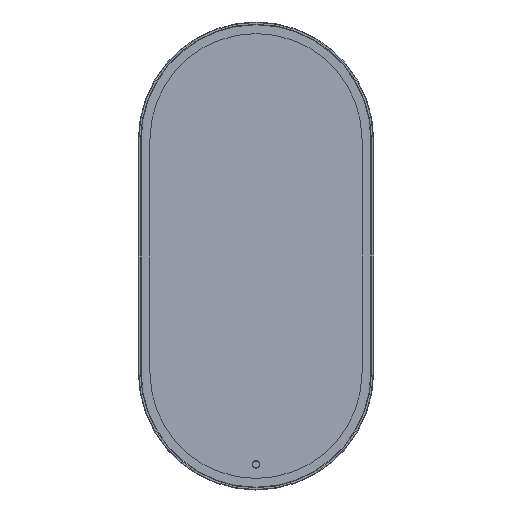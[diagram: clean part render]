
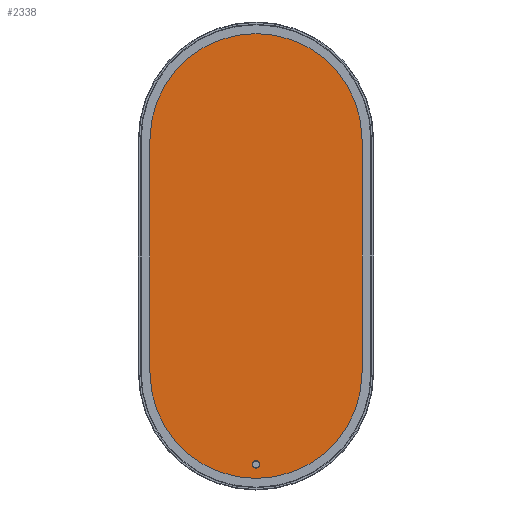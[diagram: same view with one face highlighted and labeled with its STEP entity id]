
A CAD part, front view. The second image highlights one B-rep face of the part: STEP entity #2338.
In plain terms, the highlighted planar face has unit normal (0, -1, 0).
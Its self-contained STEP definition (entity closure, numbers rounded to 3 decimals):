
#210=CIRCLE('',#2640,228.);
#212=CIRCLE('',#2644,228.);
#215=CIRCLE('',#2649,8.);
#777=ORIENTED_EDGE('',*,*,#1155,.T.);
#778=ORIENTED_EDGE('',*,*,#1142,.T.);
#779=ORIENTED_EDGE('',*,*,#1146,.T.);
#780=ORIENTED_EDGE('',*,*,#1149,.T.);
#781=ORIENTED_EDGE('',*,*,#1152,.T.);
#1142=EDGE_CURVE('',#1374,#1375,#1584,.T.);
#1146=EDGE_CURVE('',#1375,#1378,#210,.T.);
#1149=EDGE_CURVE('',#1378,#1380,#1589,.T.);
#1152=EDGE_CURVE('',#1380,#1374,#212,.T.);
#1155=EDGE_CURVE('',#1383,#1383,#215,.T.);
#1374=VERTEX_POINT('',#3942);
#1375=VERTEX_POINT('',#3943);
#1378=VERTEX_POINT('',#3951);
#1380=VERTEX_POINT('',#3957);
#1383=VERTEX_POINT('',#3969);
#1584=LINE('',#3941,#1792);
#1589=LINE('',#3956,#1797);
#1792=VECTOR('',#3260,1000.);
#1797=VECTOR('',#3273,1000.);
#1970=EDGE_LOOP('',(#777));
#1971=EDGE_LOOP('',(#778,#779,#780,#781));
#2136=FACE_BOUND('',#1970,.T.);
#2137=FACE_BOUND('',#1971,.T.);
#2218=PLANE('',#2648);
#2338=ADVANCED_FACE('',(#2136,#2137),#2218,.T.);
#2640=AXIS2_PLACEMENT_3D('',#3950,#3266,#3267);
#2644=AXIS2_PLACEMENT_3D('',#3962,#3278,#3279);
#2648=AXIS2_PLACEMENT_3D('',#3967,#3286,#3287);
#2649=AXIS2_PLACEMENT_3D('',#3968,#3288,#3289);
#3260=DIRECTION('',(0.,0.,1.));
#3266=DIRECTION('',(0.,-1.,0.));
#3267=DIRECTION('',(1.,0.,0.));
#3273=DIRECTION('',(0.,0.,-1.));
#3278=DIRECTION('',(0.,-1.,0.));
#3279=DIRECTION('',(-1.,0.,0.));
#3286=DIRECTION('',(0.,-1.,0.));
#3287=DIRECTION('',(0.,0.,-1.));
#3288=DIRECTION('',(0.,1.,0.));
#3289=DIRECTION('',(1.,0.,0.));
#3941=CARTESIAN_POINT('',(505.123,0.,268.895));
#3942=CARTESIAN_POINT('',(505.123,0.,268.895));
#3943=CARTESIAN_POINT('',(505.123,0.,768.895));
#3950=CARTESIAN_POINT('',(277.123,0.,768.895));
#3951=CARTESIAN_POINT('',(49.123,0.,768.895));
#3956=CARTESIAN_POINT('',(49.123,0.,768.895));
#3957=CARTESIAN_POINT('',(49.123,0.,268.895));
#3962=CARTESIAN_POINT('',(277.123,0.,268.895));
#3967=CARTESIAN_POINT('',(277.123,0.,768.895));
#3968=CARTESIAN_POINT('',(277.123,0.,70.895));
#3969=CARTESIAN_POINT('',(285.123,0.,70.895));
